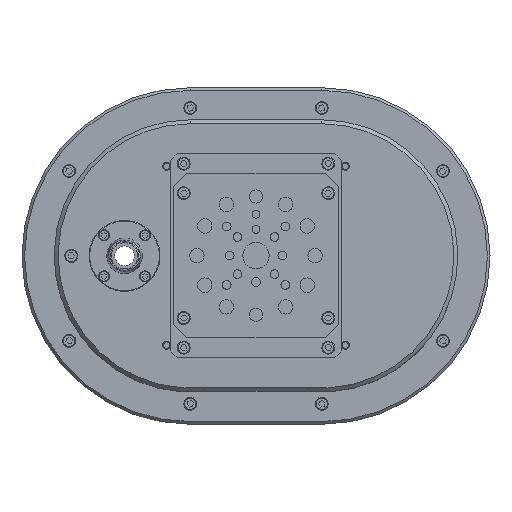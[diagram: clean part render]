
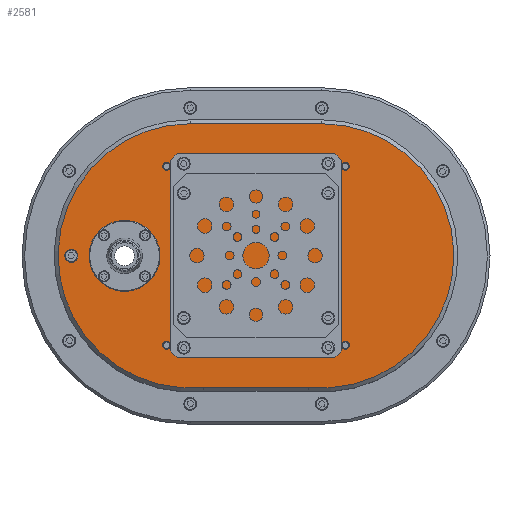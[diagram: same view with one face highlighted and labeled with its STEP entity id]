
A CAD part, top view. The second image highlights one B-rep face of the part: STEP entity #2581.
In plain terms, the highlighted planar face has unit normal (0, 0, 1) as drawn and (0, 0, -1) by its records, which use the part's own axes.
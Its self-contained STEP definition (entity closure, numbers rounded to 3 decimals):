
#2581=ADVANCED_FACE('',(#3466,#3467,#3468,#3469,#3470,#3471,#3472,#3473,#3474,#3475,#3476,#3477,#3478,#3479,#3480),#3481,.T.);
#3466=FACE_BOUND('',#5680,.T.);
#3467=FACE_BOUND('',#5681,.T.);
#3468=FACE_BOUND('',#5682,.T.);
#3469=FACE_BOUND('',#5683,.T.);
#3470=FACE_BOUND('',#5684,.T.);
#3471=FACE_BOUND('',#5685,.T.);
#3472=FACE_BOUND('',#5686,.T.);
#3473=FACE_BOUND('',#5687,.T.);
#3474=FACE_BOUND('',#5688,.T.);
#3475=FACE_BOUND('',#5689,.T.);
#3476=FACE_BOUND('',#5690,.T.);
#3477=FACE_BOUND('',#5691,.T.);
#3478=FACE_OUTER_BOUND('',#5692,.T.);
#3479=FACE_BOUND('',#5693,.T.);
#3480=FACE_BOUND('',#5694,.T.);
#3481=PLANE('',#5695);
#5680=EDGE_LOOP('',(#8051));
#5681=EDGE_LOOP('',(#8052));
#5682=EDGE_LOOP('',(#8053));
#5683=EDGE_LOOP('',(#8054));
#5684=EDGE_LOOP('',(#8055));
#5685=EDGE_LOOP('',(#8056));
#5686=EDGE_LOOP('',(#8057));
#5687=EDGE_LOOP('',(#8058));
#5688=EDGE_LOOP('',(#8059));
#5689=EDGE_LOOP('',(#8060));
#5690=EDGE_LOOP('',(#8061));
#5691=EDGE_LOOP('',(#8062));
#5692=EDGE_LOOP('',(#8063,#8064,#8065,#8066));
#5693=EDGE_LOOP('',(#8067));
#5694=EDGE_LOOP('',(#8068));
#5695=AXIS2_PLACEMENT_3D('',#8069,#8070,#8071);
#8051=ORIENTED_EDGE('',*,*,#13017,.T.);
#8052=ORIENTED_EDGE('',*,*,#13018,.T.);
#8053=ORIENTED_EDGE('',*,*,#13019,.T.);
#8054=ORIENTED_EDGE('',*,*,#13020,.T.);
#8055=ORIENTED_EDGE('',*,*,#13021,.T.);
#8056=ORIENTED_EDGE('',*,*,#13022,.T.);
#8057=ORIENTED_EDGE('',*,*,#13023,.T.);
#8058=ORIENTED_EDGE('',*,*,#13024,.T.);
#8059=ORIENTED_EDGE('',*,*,#13025,.T.);
#8060=ORIENTED_EDGE('',*,*,#13026,.T.);
#8061=ORIENTED_EDGE('',*,*,#13027,.T.);
#8062=ORIENTED_EDGE('',*,*,#13028,.T.);
#8063=ORIENTED_EDGE('',*,*,#13029,.T.);
#8064=ORIENTED_EDGE('',*,*,#13030,.T.);
#8065=ORIENTED_EDGE('',*,*,#12978,.T.);
#8066=ORIENTED_EDGE('',*,*,#13031,.T.);
#8067=ORIENTED_EDGE('',*,*,#13011,.T.);
#8068=ORIENTED_EDGE('',*,*,#13010,.T.);
#8069=CARTESIAN_POINT('',(100.0,0.0,-63.5));
#8070=DIRECTION('',(0.0,0.0,-1.0));
#8071=DIRECTION('',(1.0,0.0,0.0));
#12978=EDGE_CURVE('',#14424,#14422,#14425,.T.);
#13010=EDGE_CURVE('',#14482,#14482,#14483,.T.);
#13011=EDGE_CURVE('',#14484,#14484,#14485,.T.);
#13017=EDGE_CURVE('',#14494,#14494,#14495,.T.);
#13018=EDGE_CURVE('',#14496,#14496,#14497,.T.);
#13019=EDGE_CURVE('',#14498,#14498,#14499,.T.);
#13020=EDGE_CURVE('',#14500,#14500,#14501,.T.);
#13021=EDGE_CURVE('',#14502,#14502,#14503,.T.);
#13022=EDGE_CURVE('',#14504,#14504,#14505,.T.);
#13023=EDGE_CURVE('',#14506,#14506,#14507,.T.);
#13024=EDGE_CURVE('',#14508,#14508,#14509,.T.);
#13025=EDGE_CURVE('',#14510,#14510,#14511,.T.);
#13026=EDGE_CURVE('',#14512,#14512,#14513,.T.);
#13027=EDGE_CURVE('',#14514,#14514,#14515,.T.);
#13028=EDGE_CURVE('',#14516,#14516,#14517,.T.);
#13029=EDGE_CURVE('',#14518,#14519,#14520,.T.);
#13030=EDGE_CURVE('',#14519,#14424,#14521,.T.);
#13031=EDGE_CURVE('',#14422,#14518,#14522,.T.);
#14422=VERTEX_POINT('',#17156);
#14424=VERTEX_POINT('',#17161);
#14425=LINE('',#17162,#17163);
#14482=VERTEX_POINT('',#17239);
#14483=CIRCLE('',#17240,3.0);
#14484=VERTEX_POINT('',#17241);
#14485=CIRCLE('',#17242,3.0);
#14494=VERTEX_POINT('',#17256);
#14495=CIRCLE('',#17257,2.5);
#14496=VERTEX_POINT('',#17258);
#14497=CIRCLE('',#17259,2.5);
#14498=VERTEX_POINT('',#17260);
#14499=CIRCLE('',#17261,2.5);
#14500=VERTEX_POINT('',#17262);
#14501=CIRCLE('',#17263,2.5);
#14502=VERTEX_POINT('',#17264);
#14503=CIRCLE('',#17265,18.0);
#14504=VERTEX_POINT('',#17266);
#14505=CIRCLE('',#17267,3.0);
#14506=VERTEX_POINT('',#17268);
#14507=CIRCLE('',#17269,3.0);
#14508=VERTEX_POINT('',#17270);
#14509=CIRCLE('',#17271,3.0);
#14510=VERTEX_POINT('',#17272);
#14511=CIRCLE('',#17273,3.0);
#14512=VERTEX_POINT('',#17274);
#14513=CIRCLE('',#17275,4.25);
#14514=VERTEX_POINT('',#17276);
#14515=CIRCLE('',#17277,3.0);
#14516=VERTEX_POINT('',#17278);
#14517=CIRCLE('',#17279,3.0);
#14518=VERTEX_POINT('',#17280);
#14519=VERTEX_POINT('',#17281);
#14520=LINE('',#17282,#17283);
#14521=CIRCLE('',#17284,100.5);
#14522=CIRCLE('',#17285,100.5);
#17156=CARTESIAN_POINT('',(89.988,100.0,-63.5));
#17161=CARTESIAN_POINT('',(10.012,100.0,-63.5));
#17162=CARTESIAN_POINT('',(89.839,100.0,-63.5));
#17163=VECTOR('',#20364,1.0);
#17239=CARTESIAN_POINT('',(121.0,68.0,-63.5));
#17240=AXIS2_PLACEMENT_3D('',#20423,#20424,#20425);
#17241=CARTESIAN_POINT('',(121.0,-68.0,-63.5));
#17242=AXIS2_PLACEMENT_3D('',#20426,#20427,#20428);
#17256=CARTESIAN_POINT('',(-63.789,-13.789,-63.5));
#17257=AXIS2_PLACEMENT_3D('',#20434,#20435,#20436);
#17258=CARTESIAN_POINT('',(-36.211,-13.789,-63.5));
#17259=AXIS2_PLACEMENT_3D('',#20437,#20438,#20439);
#17260=CARTESIAN_POINT('',(-36.211,13.789,-63.5));
#17261=AXIS2_PLACEMENT_3D('',#20440,#20441,#20442);
#17262=CARTESIAN_POINT('',(-63.789,13.789,-63.5));
#17263=AXIS2_PLACEMENT_3D('',#20443,#20444,#20445);
#17264=CARTESIAN_POINT('',(-32.0,0.,-63.5));
#17265=AXIS2_PLACEMENT_3D('',#20446,#20447,#20448);
#17266=CARTESIAN_POINT('',(-2.,70.0,-63.5));
#17267=AXIS2_PLACEMENT_3D('',#20449,#20450,#20451);
#17268=CARTESIAN_POINT('',(-2.,-70.0,-63.5));
#17269=AXIS2_PLACEMENT_3D('',#20452,#20453,#20454);
#17270=CARTESIAN_POINT('',(108.0,-70.0,-63.5));
#17271=AXIS2_PLACEMENT_3D('',#20455,#20456,#20457);
#17272=CARTESIAN_POINT('',(108.0,70.0,-63.5));
#17273=AXIS2_PLACEMENT_3D('',#20458,#20459,#20460);
#17274=CARTESIAN_POINT('',(-86.25,0.,-63.5));
#17275=AXIS2_PLACEMENT_3D('',#20461,#20462,#20463);
#17276=CARTESIAN_POINT('',(-15.0,-68.0,-63.5));
#17277=AXIS2_PLACEMENT_3D('',#20464,#20465,#20466);
#17278=CARTESIAN_POINT('',(-15.0,68.0,-63.5));
#17279=AXIS2_PLACEMENT_3D('',#20467,#20468,#20469);
#17280=CARTESIAN_POINT('',(100.0,-100.5,-63.5));
#17281=CARTESIAN_POINT('',(0.0,-100.5,-63.5));
#17282=CARTESIAN_POINT('',(0.0,-100.5,-63.5));
#17283=VECTOR('',#20470,1.0);
#17284=AXIS2_PLACEMENT_3D('',#20471,#20472,#20473);
#17285=AXIS2_PLACEMENT_3D('',#20474,#20475,#20476);
#20364=DIRECTION('',(1.0,0.0,0.0));
#20423=CARTESIAN_POINT('',(118.0,68.0,-63.5));
#20424=DIRECTION('',(0.0,0.0,1.0));
#20425=DIRECTION('',(1.0,0.0,0.0));
#20426=CARTESIAN_POINT('',(118.0,-68.0,-63.5));
#20427=DIRECTION('',(0.0,0.0,1.0));
#20428=DIRECTION('',(1.0,0.0,0.0));
#20434=CARTESIAN_POINT('',(-65.556,-15.556,-63.5));
#20435=DIRECTION('',(0.0,-0.0,1.0));
#20436=DIRECTION('',(0.707,0.707,0.0));
#20437=CARTESIAN_POINT('',(-34.444,-15.556,-63.5));
#20438=DIRECTION('',(0.0,0.0,1.0));
#20439=DIRECTION('',(-0.707,0.707,0.0));
#20440=CARTESIAN_POINT('',(-34.444,15.556,-63.5));
#20441=DIRECTION('',(0.0,0.0,1.0));
#20442=DIRECTION('',(-0.707,-0.707,0.0));
#20443=CARTESIAN_POINT('',(-65.556,15.556,-63.5));
#20444=DIRECTION('',(0.0,0.0,1.0));
#20445=DIRECTION('',(0.707,-0.707,0.0));
#20446=CARTESIAN_POINT('',(-50.0,0.,-63.5));
#20447=DIRECTION('',(0.0,0.0,1.0));
#20448=DIRECTION('',(1.0,0.0,0.0));
#20449=CARTESIAN_POINT('',(-5.,70.0,-63.5));
#20450=DIRECTION('',(0.0,0.0,1.0));
#20451=DIRECTION('',(1.0,0.0,0.0));
#20452=CARTESIAN_POINT('',(-5.,-70.0,-63.5));
#20453=DIRECTION('',(0.0,0.0,1.0));
#20454=DIRECTION('',(1.0,0.0,0.0));
#20455=CARTESIAN_POINT('',(105.0,-70.0,-63.5));
#20456=DIRECTION('',(0.0,0.0,1.0));
#20457=DIRECTION('',(1.0,0.0,0.0));
#20458=CARTESIAN_POINT('',(105.0,70.0,-63.5));
#20459=DIRECTION('',(0.0,0.0,1.0));
#20460=DIRECTION('',(1.0,0.0,0.0));
#20461=CARTESIAN_POINT('',(-90.5,0.,-63.5));
#20462=DIRECTION('',(0.0,0.0,1.0));
#20463=DIRECTION('',(1.0,0.0,0.0));
#20464=CARTESIAN_POINT('',(-18.0,-68.0,-63.5));
#20465=DIRECTION('',(0.0,0.0,1.0));
#20466=DIRECTION('',(1.0,0.0,0.0));
#20467=CARTESIAN_POINT('',(-18.0,68.0,-63.5));
#20468=DIRECTION('',(0.0,0.0,1.0));
#20469=DIRECTION('',(1.0,0.0,0.0));
#20470=DIRECTION('',(-1.0,0.0,0.0));
#20471=CARTESIAN_POINT('',(0.0,0.0,-63.5));
#20472=DIRECTION('',(0.0,0.0,-1.0));
#20473=DIRECTION('',(-1.0,0.0,0.0));
#20474=CARTESIAN_POINT('',(100.0,0.0,-63.5));
#20475=DIRECTION('',(0.0,0.0,-1.0));
#20476=DIRECTION('',(-1.0,0.0,0.0));
